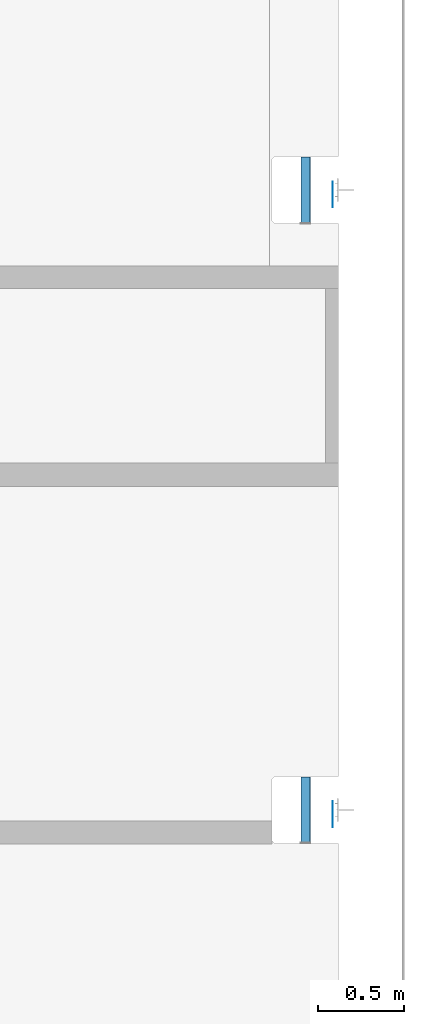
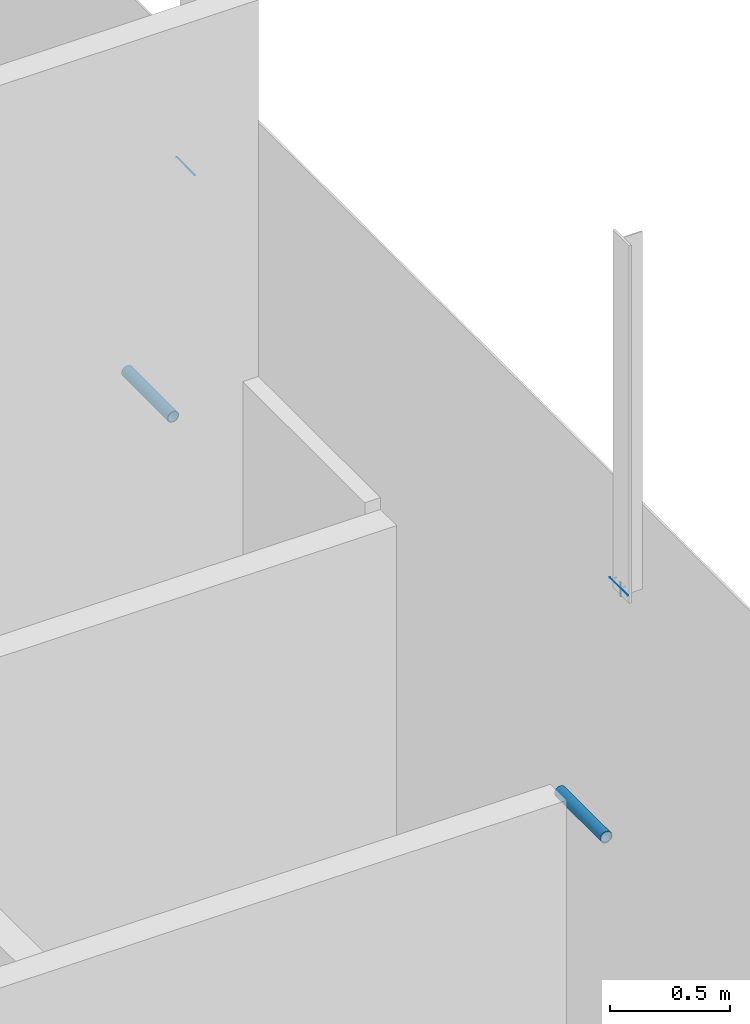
# One storey, part 35 of 186: 4 beams.
"""IFC4X3_ADD2 building model written with IfcOpenShell, lengths in millimetres."""

from ifc_helpers import new_model, si_unit, direction, frame, frame_2d, origin_with_axes, place, context, subcontext, project, spatial, rectangle, hollow_circle, extrude, material, element, save


model = new_model("IFC4X3_ADD2")

# Units and contexts
model_context = context("Model", 3, precision=1e-05, world=origin_with_axes(), true_north=direction((0.0, 1.0)))
body_context = subcontext(model_context, "Body", "Model", "MODEL_VIEW")
ifc_project = project(units=[si_unit("LENGTHUNIT", "METRE", prefix="MILLI"), si_unit("AREAUNIT", "SQUARE_METRE"), si_unit("VOLUMEUNIT", "CUBIC_METRE"), si_unit("PLANEANGLEUNIT", "RADIAN"), si_unit("TIMEUNIT", "SECOND"), si_unit("MASSUNIT", "GRAM")], contexts=[model_context])

# Site, building, storey
site_placement = place(None, origin_with_axes())
site = spatial("IfcSite", under=ifc_project, at=site_placement, Name="Site", CompositionType="ELEMENT")
building_placement = place(site_placement, origin_with_axes())
building = spatial("IfcBuilding", under=site, at=building_placement, Name="IFC Building Story")
storey_placement = place(building_placement, frame((0.0, 0.0, 4370.0), z_axis=(0.0, 0.0, 1.0), x_axis=(1.0, 0.0, 0.0)))
storey = spatial("IfcBuildingStorey", under=building, at=storey_placement, Name="ETAGE 10 (1)", Elevation=4370.0)

# Beams
ifc_material_1 = material(Name="STEEL/Accessory_invisible")
for number, where, z_axis, x_axis, name in (
    (1, (48468.6886362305, 8685.0006109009, 3859.5), (1.0, 0.0, 0.0), (0.0, 0.0, -1.0), "RH14"),
    (2, (48468.6886362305, 12295.0006109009, 3809.5), (1.0, 0.0, 0.0), (0.0, 0.0, -1.0), "RH14"),
):
    element("IfcBeam", number, at=place(storey_placement, frame(where, z_axis=z_axis, x_axis=x_axis)), inside=storey, material=ifc_material_1, Name=name, ObjectType="1*1 6", context=body_context, shape_type="SweptSolid", body=[
        extrude(rectangle(XDim=0.9999999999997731, YDim=150.000000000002, at=frame_2d((0.0, 5.95523630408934e-12), x_axis=(1.0, 0.0))), origin_with_axes(), (0.0, 0.0, 1.0), 1.0),
    ])
ifc_material_2 = material(Name="STEEL/Accessory_PVC")
beam_1_placement = place(storey_placement, frame((48311.1886362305, 8518.00061095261, 2740.794), z_axis=(0.0, 1.0, 0.0), x_axis=(1.0, 0.0, 0.0)))
element("IfcBeam", 3, at=beam_1_placement, inside=storey, material=ifc_material_2, Name="PS13", ObjectType="O56*3", context=body_context, shape_type="SweptSolid", body=[
    extrude(hollow_circle(Radius=28.0, WallThickness=3.0, at=frame_2d((0.0, 5.95523630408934e-12), x_axis=(1.0, 0.0))), origin_with_axes(), (0.0, 0.0, 1.0), 384.0),
])
beam_2_placement = place(storey_placement, frame((48311.1886362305, 12128.0006109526, 2690.802), z_axis=(0.0, 1.0, 0.0), x_axis=(1.0, 0.0, 0.0)))
element("IfcBeam", 4, at=beam_2_placement, inside=storey, material=ifc_material_2, Name="PS13", ObjectType="O56*3", context=body_context, shape_type="SweptSolid", body=[
    extrude(hollow_circle(Radius=28.0, WallThickness=3.0, at=frame_2d((0.0, 5.95523630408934e-12), x_axis=(1.0, 0.0))), origin_with_axes(), (0.0, 0.0, 1.0), 383.9999999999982),
])

save(model, "model.ifc")
